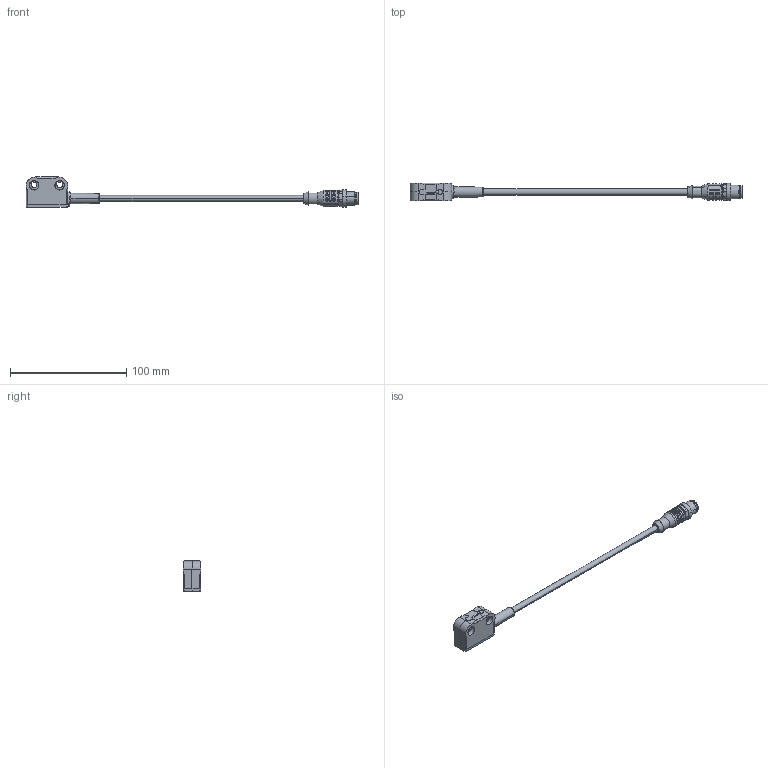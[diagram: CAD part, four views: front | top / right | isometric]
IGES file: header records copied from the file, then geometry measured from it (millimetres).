
Start section:  PTC IGES file: K-60700009_01.igs
Global section: file name: K-60700009_01.igs; native system: Creo Parametric by PTC Inc.; preprocessor: 2017260; author: Yvonne.Storm; organization: Unknown; date: 20180425.142517; units: millimetre
Bounding box: 286 x 15 x 26.37 mm (x, y, z)
Surface area: 14256.6 mm2 (no closed solid volume)
Topology: 0 solids, 0 shells, 991 faces, 4746 edges, 4736 vertices
Faces by surface type: revolution 526, bspline 433, extrusion 32
